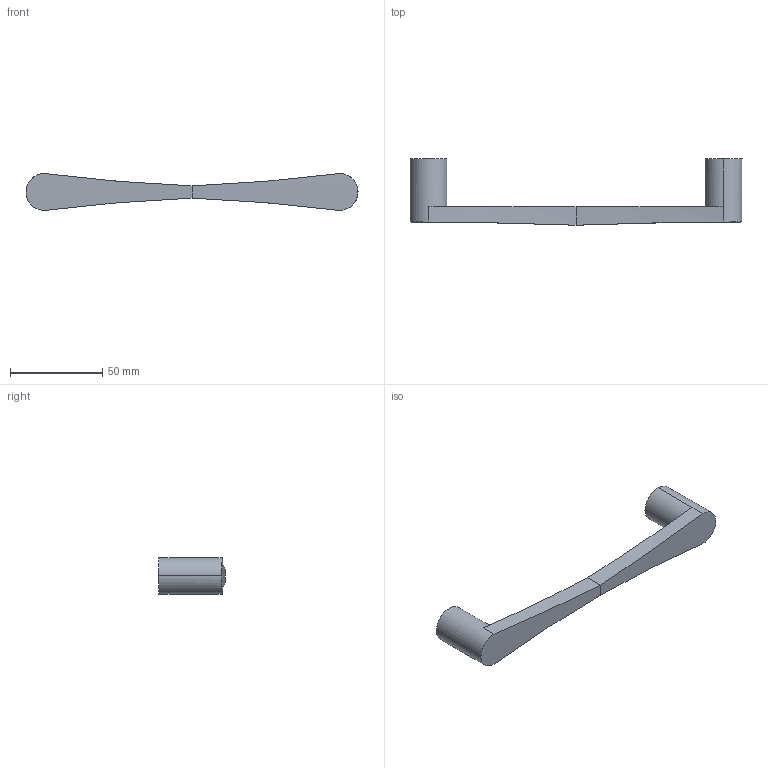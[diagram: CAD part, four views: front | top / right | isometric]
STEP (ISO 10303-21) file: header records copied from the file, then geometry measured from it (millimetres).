
FILE_DESCRIPTION( ( '' ), '1' );
FILE_NAME( 'D:/1.AUTOCAD EXPORT/Group 10/sheet_10_1/DONE/Sachin_1/115192.stp', '2013-10-29T09:50:03', ( '' ), ( '' ), ' ', ' ', ' ' );
FILE_SCHEMA( ( 'CONFIG_CONTROL_DESIGN' ) );
Length unit declared in the file: millimetre
Products named in the file (1): 1
Bounding box: 180 x 36 x 20 mm (x, y, z)
Volume: 35858.2 mm3; surface area: 11386.2 mm2
Topology: 1 solids, 1 shells, 23 faces, 50 edges, 31 vertices
Faces by surface type: cylinder 14, plane 9
Entity records: 804 total; most frequent: CARTESIAN_POINT 243, DIRECTION 119, ORIENTED_EDGE 100, AXIS2_PLACEMENT_3D 52, EDGE_CURVE 50, VERTEX_POINT 31, CIRCLE 28, EDGE_LOOP 25
